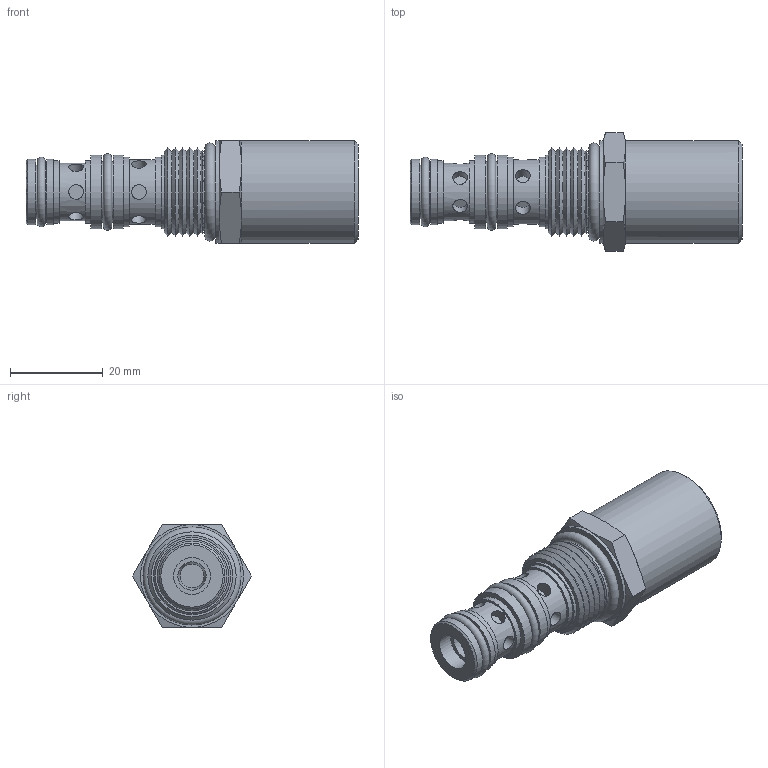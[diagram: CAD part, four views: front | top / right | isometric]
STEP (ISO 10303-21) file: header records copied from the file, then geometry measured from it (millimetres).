
FILE_DESCRIPTION((''),'2;1');
FILE_NAME('Q:\Delta CADD Insertion Codes\3D Solid models\Mechanical Valves\STEP\PPPCC00.stp','2012-06-04T11:55:00',('Dan'),(''),'Autodesk Inventor 2012','Autodesk Inventor 2012','');
FILE_SCHEMA(('AUTOMOTIVE_DESIGN { 1 0 10303 214 1 1 1 1 }'));
Length unit declared in the file: inch
Products named in the file (5): Assembly4; Part26; Part28; Part30; Part32
Assembly tree (4 placements, depth 2):
  Assembly4
    Part26
    Part28
    Part30
    Part32
Bounding box: 71.64 x 25.66 x 22.23 mm (x, y, z)
Volume: 19349.6 mm3; surface area: 6830.3 mm2
Topology: 4 solids, 4 shells, 95 faces, 193 edges, 126 vertices
Faces by surface type: plane 36, cylinder 29, cone 27, torus 3
Full cylindrical faces by diameter (mm): 3.175 x12, 7.935 x1, 11.455 x1, 12.421 x1, 13.056 x1, 13.437 x2, 14.021 x1, 14.199 x2, 15.037 x2, 15.799 x2, 15.824 x1, 16.751 x1, 22.225 x2
Entity records: 2644 total; most frequent: CARTESIAN_POINT 807, DIRECTION 378, ORIENTED_EDGE 264, AXIS2_PLACEMENT_3D 186, EDGE_LOOP 167, EDGE_CURVE 132, VERTEX_POINT 111, FACE_OUTER_BOUND 95
